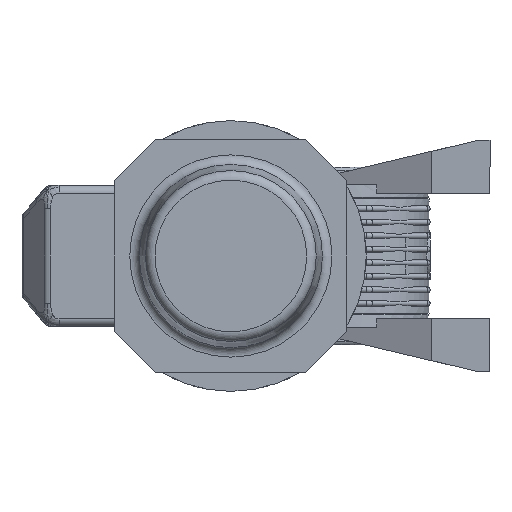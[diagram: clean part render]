
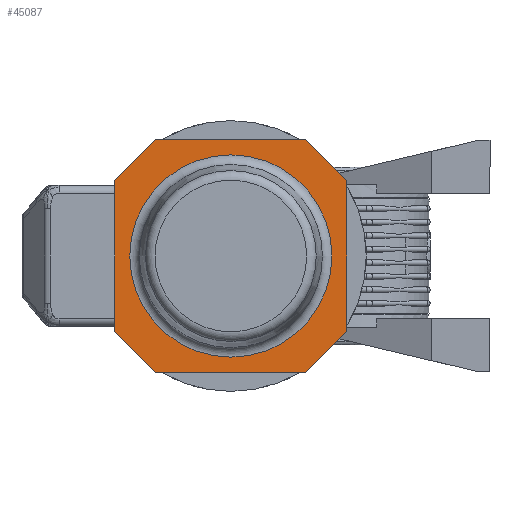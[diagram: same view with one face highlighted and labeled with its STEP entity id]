
A CAD part, left-side view. The second image highlights one B-rep face of the part: STEP entity #45087.
In plain terms, the highlighted planar face has unit normal (-1, 0, 0) as drawn and (1, 0, 0) by its records, which use the part's own axes.
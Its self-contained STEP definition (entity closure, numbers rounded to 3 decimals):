
#44981=CARTESIAN_POINT('',(176.0,0.,52.284));
#44982=VERTEX_POINT('',#44981);
#44983=CARTESIAN_POINT('',(176.0,0.0,0.0));
#44984=DIRECTION('',(1.0,0.0,0.0));
#44985=DIRECTION('',(0.0,0.0,-1.0));
#44986=AXIS2_PLACEMENT_3D('',#44983,#44984,#44985);
#44987=CIRCLE('',#44986,52.284);
#44988=EDGE_CURVE('',#44982,#44982,#44987,.T.);
#45013=CARTESIAN_POINT('',(176.0,26.4,0.0));
#45014=DIRECTION('',(1.0,0.0,0.0));
#45015=DIRECTION('',(0.0,0.0,-1.0));
#45016=AXIS2_PLACEMENT_3D('',#45013,#45014,#45015);
#45017=PLANE('',#45016);
#45018=CARTESIAN_POINT('',(176.0,-60.0,38.787));
#45019=VERTEX_POINT('',#45018);
#45020=CARTESIAN_POINT('',(176.0,-38.787,60.0));
#45021=VERTEX_POINT('',#45020);
#45022=CARTESIAN_POINT('',(176.0,-60.0,38.787));
#45023=DIRECTION('',(0.0,0.707,0.707));
#45024=VECTOR('',#45023,30.);
#45025=LINE('',#45022,#45024);
#45026=EDGE_CURVE('',#45019,#45021,#45025,.T.);
#45027=ORIENTED_EDGE('',*,*,#45026,.F.);
#45028=CARTESIAN_POINT('',(176.0,-60.0,-38.787));
#45029=VERTEX_POINT('',#45028);
#45030=CARTESIAN_POINT('',(176.0,-60.0,-38.787));
#45031=DIRECTION('',(0.0,0.0,1.0));
#45032=VECTOR('',#45031,77.574);
#45033=LINE('',#45030,#45032);
#45034=EDGE_CURVE('',#45029,#45019,#45033,.T.);
#45035=ORIENTED_EDGE('',*,*,#45034,.F.);
#45036=CARTESIAN_POINT('',(176.0,-38.787,-60.0));
#45037=VERTEX_POINT('',#45036);
#45038=CARTESIAN_POINT('',(176.0,-38.787,-60.0));
#45039=DIRECTION('',(0.0,-0.707,0.707));
#45040=VECTOR('',#45039,30.);
#45041=LINE('',#45038,#45040);
#45042=EDGE_CURVE('',#45037,#45029,#45041,.T.);
#45043=ORIENTED_EDGE('',*,*,#45042,.F.);
#45044=CARTESIAN_POINT('',(176.0,38.787,-60.0));
#45045=VERTEX_POINT('',#45044);
#45046=CARTESIAN_POINT('',(176.0,38.787,-60.0));
#45047=DIRECTION('',(0.0,-1.0,0.0));
#45048=VECTOR('',#45047,77.574);
#45049=LINE('',#45046,#45048);
#45050=EDGE_CURVE('',#45045,#45037,#45049,.T.);
#45051=ORIENTED_EDGE('',*,*,#45050,.F.);
#45052=CARTESIAN_POINT('',(176.0,60.0,-38.787));
#45053=VERTEX_POINT('',#45052);
#45054=CARTESIAN_POINT('',(176.0,60.0,-38.787));
#45055=DIRECTION('',(0.0,-0.707,-0.707));
#45056=VECTOR('',#45055,30.);
#45057=LINE('',#45054,#45056);
#45058=EDGE_CURVE('',#45053,#45045,#45057,.T.);
#45059=ORIENTED_EDGE('',*,*,#45058,.F.);
#45060=CARTESIAN_POINT('',(176.0,60.0,38.787));
#45061=VERTEX_POINT('',#45060);
#45062=CARTESIAN_POINT('',(176.0,60.0,38.787));
#45063=DIRECTION('',(0.0,0.0,-1.0));
#45064=VECTOR('',#45063,77.574);
#45065=LINE('',#45062,#45064);
#45066=EDGE_CURVE('',#45061,#45053,#45065,.T.);
#45067=ORIENTED_EDGE('',*,*,#45066,.F.);
#45068=CARTESIAN_POINT('',(176.0,38.787,60.0));
#45069=VERTEX_POINT('',#45068);
#45070=CARTESIAN_POINT('',(176.0,38.787,60.0));
#45071=DIRECTION('',(0.0,0.707,-0.707));
#45072=VECTOR('',#45071,30.);
#45073=LINE('',#45070,#45072);
#45074=EDGE_CURVE('',#45069,#45061,#45073,.T.);
#45075=ORIENTED_EDGE('',*,*,#45074,.F.);
#45076=CARTESIAN_POINT('',(176.0,-38.787,60.0));
#45077=DIRECTION('',(0.0,1.0,0.0));
#45078=VECTOR('',#45077,77.574);
#45079=LINE('',#45076,#45078);
#45080=EDGE_CURVE('',#45021,#45069,#45079,.T.);
#45081=ORIENTED_EDGE('',*,*,#45080,.F.);
#45082=EDGE_LOOP('',(#45027,#45035,#45043,#45051,#45059,#45067,#45075,#45081));
#45083=FACE_OUTER_BOUND('',#45082,.T.);
#45084=ORIENTED_EDGE('',*,*,#44988,.F.);
#45085=EDGE_LOOP('',(#45084));
#45086=FACE_BOUND('',#45085,.T.);
#45087=ADVANCED_FACE('',(#45083,#45086),#45017,.T.);
